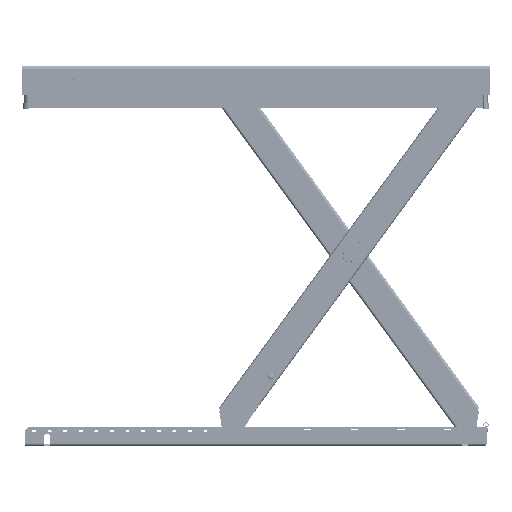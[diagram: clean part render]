
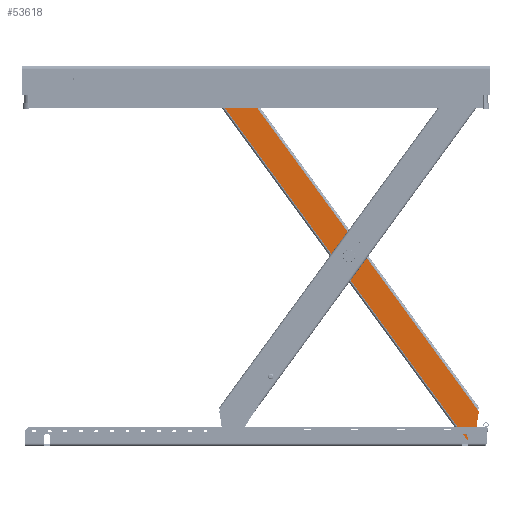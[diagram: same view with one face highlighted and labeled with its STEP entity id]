
A CAD part, left-side view. The second image highlights one B-rep face of the part: STEP entity #53618.
In plain terms, the highlighted planar face has unit normal (-1, 0, 0) as drawn and (1, 0, 0) by its records, which use the part's own axes.
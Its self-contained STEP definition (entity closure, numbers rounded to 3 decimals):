
#2339=FACE_BOUND('',#8033,.T.);
#2340=FACE_BOUND('',#8034,.T.);
#2341=FACE_BOUND('',#8035,.T.);
#2996=PLANE('',#57935);
#4690=FACE_OUTER_BOUND('',#8032,.T.);
#8032=EDGE_LOOP('',(#39069,#39070,#39071,#39072,#39073,#39074,#39075,#39076,
#39077,#39078,#39079,#39080,#39081,#39082,#39083,#39084));
#8033=EDGE_LOOP('',(#39085));
#8034=EDGE_LOOP('',(#39086));
#8035=EDGE_LOOP('',(#39087));
#11988=LINE('',#82486,#16727);
#11991=LINE('',#82492,#16730);
#11992=LINE('',#82496,#16731);
#11993=LINE('',#82500,#16732);
#11994=LINE('',#82502,#16733);
#11995=LINE('',#82504,#16734);
#11996=LINE('',#82508,#16735);
#11997=LINE('',#82512,#16736);
#11998=LINE('',#82516,#16737);
#11999=LINE('',#82517,#16738);
#16727=VECTOR('',#65631,10.);
#16730=VECTOR('',#65636,10.);
#16731=VECTOR('',#65639,10.);
#16732=VECTOR('',#65642,10.);
#16733=VECTOR('',#65643,10.);
#16734=VECTOR('',#65644,10.);
#16735=VECTOR('',#65647,10.);
#16736=VECTOR('',#65650,10.);
#16737=VECTOR('',#65653,10.);
#16738=VECTOR('',#65654,10.);
#21023=CIRCLE('',#57933,2.);
#21024=CIRCLE('',#57936,2.);
#21025=CIRCLE('',#57937,2.);
#21026=CIRCLE('',#57938,2.);
#21027=CIRCLE('',#57939,2.);
#21028=CIRCLE('',#57940,2.);
#21029=CIRCLE('',#57941,30.);
#21030=CIRCLE('',#57942,7.1);
#21031=CIRCLE('',#57943,7.1);
#24118=VERTEX_POINT('',#82479);
#24119=VERTEX_POINT('',#82481);
#24120=VERTEX_POINT('',#82485);
#24122=VERTEX_POINT('',#82491);
#24123=VERTEX_POINT('',#82493);
#24124=VERTEX_POINT('',#82495);
#24125=VERTEX_POINT('',#82497);
#24126=VERTEX_POINT('',#82499);
#24127=VERTEX_POINT('',#82501);
#24128=VERTEX_POINT('',#82503);
#24129=VERTEX_POINT('',#82505);
#24130=VERTEX_POINT('',#82507);
#24131=VERTEX_POINT('',#82509);
#24132=VERTEX_POINT('',#82511);
#24133=VERTEX_POINT('',#82513);
#24134=VERTEX_POINT('',#82515);
#24135=VERTEX_POINT('',#82518);
#24136=VERTEX_POINT('',#82520);
#24137=VERTEX_POINT('',#82522);
#29755=EDGE_CURVE('',#24118,#24119,#21023,.T.);
#29757=EDGE_CURVE('',#24120,#24119,#11988,.T.);
#29760=EDGE_CURVE('',#24118,#24122,#11991,.T.);
#29761=EDGE_CURVE('',#24123,#24122,#21024,.T.);
#29762=EDGE_CURVE('',#24123,#24124,#11992,.T.);
#29763=EDGE_CURVE('',#24125,#24124,#21025,.T.);
#29764=EDGE_CURVE('',#24126,#24125,#11993,.T.);
#29765=EDGE_CURVE('',#24127,#24126,#11994,.T.);
#29766=EDGE_CURVE('',#24128,#24127,#11995,.T.);
#29767=EDGE_CURVE('',#24129,#24128,#21026,.T.);
#29768=EDGE_CURVE('',#24129,#24130,#11996,.T.);
#29769=EDGE_CURVE('',#24131,#24130,#21027,.T.);
#29770=EDGE_CURVE('',#24131,#24132,#11997,.T.);
#29771=EDGE_CURVE('',#24133,#24132,#21028,.T.);
#29772=EDGE_CURVE('',#24133,#24134,#11998,.T.);
#29773=EDGE_CURVE('',#24134,#24120,#11999,.T.);
#29774=EDGE_CURVE('',#24135,#24135,#21029,.T.);
#29775=EDGE_CURVE('',#24136,#24136,#21030,.T.);
#29776=EDGE_CURVE('',#24137,#24137,#21031,.T.);
#39069=ORIENTED_EDGE('',*,*,#29755,.F.);
#39070=ORIENTED_EDGE('',*,*,#29760,.T.);
#39071=ORIENTED_EDGE('',*,*,#29761,.F.);
#39072=ORIENTED_EDGE('',*,*,#29762,.T.);
#39073=ORIENTED_EDGE('',*,*,#29763,.F.);
#39074=ORIENTED_EDGE('',*,*,#29764,.F.);
#39075=ORIENTED_EDGE('',*,*,#29765,.F.);
#39076=ORIENTED_EDGE('',*,*,#29766,.F.);
#39077=ORIENTED_EDGE('',*,*,#29767,.F.);
#39078=ORIENTED_EDGE('',*,*,#29768,.T.);
#39079=ORIENTED_EDGE('',*,*,#29769,.F.);
#39080=ORIENTED_EDGE('',*,*,#29770,.T.);
#39081=ORIENTED_EDGE('',*,*,#29771,.F.);
#39082=ORIENTED_EDGE('',*,*,#29772,.T.);
#39083=ORIENTED_EDGE('',*,*,#29773,.T.);
#39084=ORIENTED_EDGE('',*,*,#29757,.T.);
#39085=ORIENTED_EDGE('',*,*,#29774,.T.);
#39086=ORIENTED_EDGE('',*,*,#29775,.T.);
#39087=ORIENTED_EDGE('',*,*,#29776,.T.);
#53618=ADVANCED_FACE('',(#4690,#2339,#2340,#2341),#2996,.T.);
#57933=AXIS2_PLACEMENT_3D('',#82482,#65626,#65627);
#57935=AXIS2_PLACEMENT_3D('',#82490,#65634,#65635);
#57936=AXIS2_PLACEMENT_3D('',#82494,#65637,#65638);
#57937=AXIS2_PLACEMENT_3D('',#82498,#65640,#65641);
#57938=AXIS2_PLACEMENT_3D('',#82506,#65645,#65646);
#57939=AXIS2_PLACEMENT_3D('',#82510,#65648,#65649);
#57940=AXIS2_PLACEMENT_3D('',#82514,#65651,#65652);
#57941=AXIS2_PLACEMENT_3D('',#82519,#65655,#65656);
#57942=AXIS2_PLACEMENT_3D('',#82521,#65657,#65658);
#57943=AXIS2_PLACEMENT_3D('',#82523,#65659,#65660);
#65626=DIRECTION('center_axis',(-1.,0.,0.));
#65627=DIRECTION('ref_axis',(0.,-0.707,-0.707));
#65631=DIRECTION('',(0.,0.,-1.));
#65634=DIRECTION('center_axis',(1.,0.,0.));
#65635=DIRECTION('ref_axis',(0.,0.,-1.));
#65636=DIRECTION('',(0.,1.,0.));
#65637=DIRECTION('center_axis',(-1.,0.,0.));
#65638=DIRECTION('ref_axis',(0.,0.383,-0.924));
#65639=DIRECTION('',(0.,0.707,0.707));
#65640=DIRECTION('center_axis',(-1.,0.,0.));
#65641=DIRECTION('ref_axis',(0.,0.924,-0.383));
#65642=DIRECTION('',(0.,0.,-1.));
#65643=DIRECTION('',(0.,0.,-1.));
#65644=DIRECTION('',(0.,0.,-1.));
#65645=DIRECTION('center_axis',(-1.,0.,0.));
#65646=DIRECTION('ref_axis',(0.,0.707,0.707));
#65647=DIRECTION('',(0.,-1.,0.));
#65648=DIRECTION('center_axis',(-1.,0.,0.));
#65649=DIRECTION('ref_axis',(0.,-0.383,0.924));
#65650=DIRECTION('',(0.,-0.707,-0.707));
#65651=DIRECTION('center_axis',(-1.,0.,0.));
#65652=DIRECTION('ref_axis',(0.,-0.924,0.383));
#65653=DIRECTION('',(0.,0.,-1.));
#65654=DIRECTION('',(0.,0.,-1.));
#65655=DIRECTION('center_axis',(-1.,0.,0.));
#65656=DIRECTION('ref_axis',(0.,0.,1.));
#65657=DIRECTION('center_axis',(-1.,0.,0.));
#65658=DIRECTION('ref_axis',(0.,0.,1.));
#65659=DIRECTION('center_axis',(-1.,0.,0.));
#65660=DIRECTION('ref_axis',(0.,0.,1.));
#82479=CARTESIAN_POINT('',(30.,-40.,-705.));
#82481=CARTESIAN_POINT('',(30.,-42.,-703.));
#82482=CARTESIAN_POINT('Origin',(30.,-40.,-703.));
#82485=CARTESIAN_POINT('',(30.,-42.,-657.));
#82486=CARTESIAN_POINT('',(30.,-42.,0.));
#82490=CARTESIAN_POINT('Origin',(30.,42.,0.));
#82491=CARTESIAN_POINT('',(30.,-15.828,-705.));
#82492=CARTESIAN_POINT('',(30.,42.,-705.));
#82493=CARTESIAN_POINT('',(30.,-14.414,-704.414));
#82494=CARTESIAN_POINT('Origin',(30.,-15.828,-703.));
#82495=CARTESIAN_POINT('',(30.,41.414,-648.586));
#82496=CARTESIAN_POINT('',(30.,208.,-482.));
#82497=CARTESIAN_POINT('',(30.,42.,-647.172));
#82498=CARTESIAN_POINT('Origin',(30.,40.,-647.172));
#82499=CARTESIAN_POINT('',(30.,42.,-642.));
#82500=CARTESIAN_POINT('',(30.,42.,0.));
#82501=CARTESIAN_POINT('',(30.,42.,657.));
#82502=CARTESIAN_POINT('',(30.,42.,0.));
#82503=CARTESIAN_POINT('',(30.,42.,703.));
#82504=CARTESIAN_POINT('',(30.,42.,0.));
#82505=CARTESIAN_POINT('',(30.,40.,705.));
#82506=CARTESIAN_POINT('Origin',(30.,40.,703.));
#82507=CARTESIAN_POINT('',(30.,15.828,705.));
#82508=CARTESIAN_POINT('',(30.,42.,705.));
#82509=CARTESIAN_POINT('',(30.,14.414,704.414));
#82510=CARTESIAN_POINT('Origin',(30.,15.828,703.));
#82511=CARTESIAN_POINT('',(30.,-41.414,648.586));
#82512=CARTESIAN_POINT('',(30.,-187.,503.));
#82513=CARTESIAN_POINT('',(30.,-42.,647.172));
#82514=CARTESIAN_POINT('Origin',(30.,-40.,647.172));
#82515=CARTESIAN_POINT('',(30.,-42.,642.));
#82516=CARTESIAN_POINT('',(30.,-42.,0.));
#82517=CARTESIAN_POINT('',(30.,-42.,0.));
#82518=CARTESIAN_POINT('',(30.,0.,-30.));
#82519=CARTESIAN_POINT('Origin',(30.,0.,0.));
#82520=CARTESIAN_POINT('',(30.,25.,682.9));
#82521=CARTESIAN_POINT('Origin',(30.,25.,690.));
#82522=CARTESIAN_POINT('',(30.,-25.,-697.1));
#82523=CARTESIAN_POINT('Origin',(30.,-25.,-690.));
